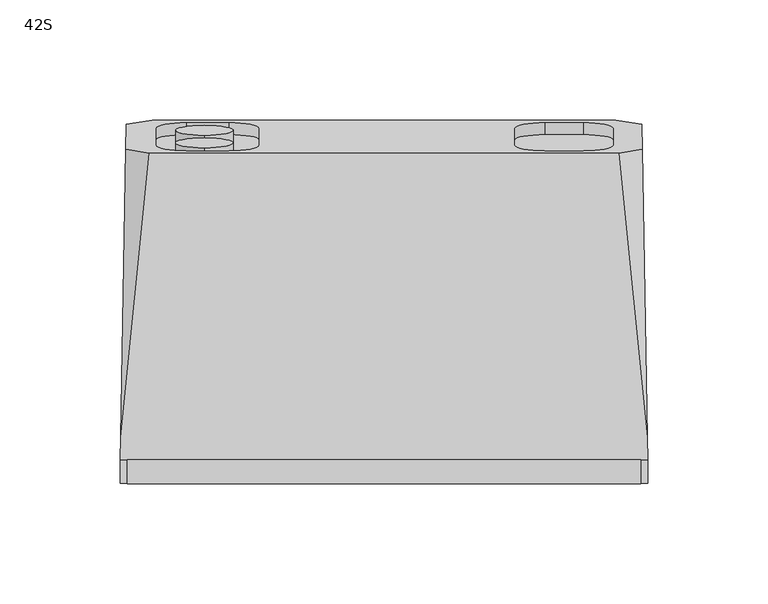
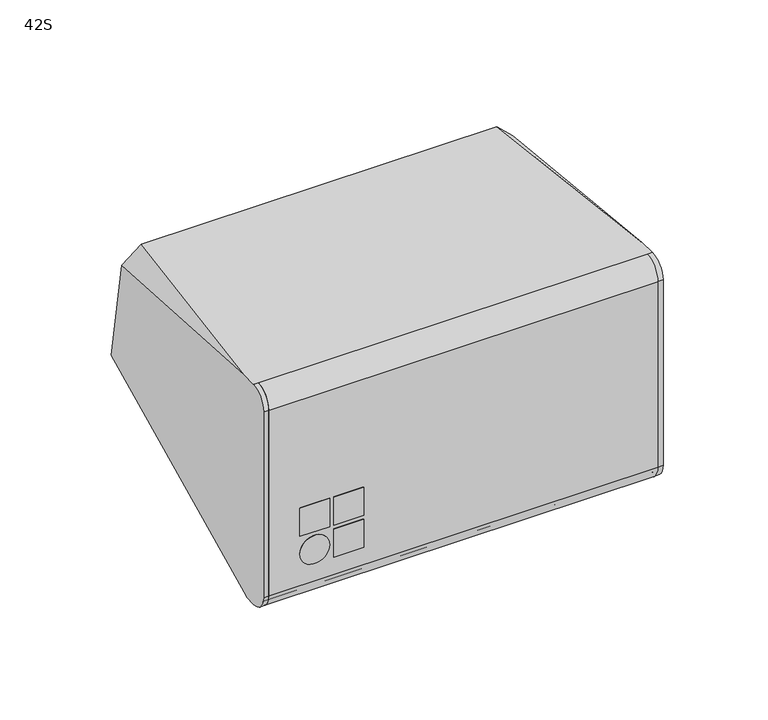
"""IFC4 building model written with IfcOpenShell, lengths in millimetres: proxy geometry, d&b xS-Series 42S Point Source : 42S."""

from ifc_helpers import new_model, si_unit, point, frame, frame_2d, origin, place, context, project, spatial, polyline, circle_curve, ellipse_curve, trimmed, segment, composite_curve, outline, extrude, source, transform, mapped, element, save
from ifc_brep_helpers import plane_surface, cylinder_surface, revolved_surface, advanced_brep


def proxy_42s_642b6e83(model_context):
    return source(origin(), model_context, "Body", "SolidModel", [
        extrude(outline(polyline([(-73.6666667, -76.0), (-90.0, -76.0), (-90.0, -71.0), (-73.6666667, -71.0), (-73.6666667, -76.0)])), frame((0.0, 0.0, -25.3333333), z_axis=(0.0, 0.0, 1.0), x_axis=(1.0, 0.0, 0.0)), (0.0, 0.0, 1.0), 16.3333333),
        extrude(outline(polyline([(-55.0, -76.0), (-71.3333333, -76.0), (-71.3333333, -71.0), (-55.0, -71.0), (-55.0, -76.0)])), frame((0.0, 0.0, -25.3333333), z_axis=(0.0, 0.0, 1.0), x_axis=(1.0, 0.0, 0.0)), (0.0, 0.0, 1.0), 16.3333333),
        extrude(outline(polyline([(-55.0, -76.0), (-71.3333333, -76.0), (-71.3333333, -71.0), (-55.0, -71.0), (-55.0, -76.0)])), frame((0.0, 0.0, -44.0), z_axis=(0.0, 0.0, 1.0), x_axis=(1.0, 0.0, 0.0)), (0.0, 0.0, 1.0), 16.3333333),
        extrude(outline(composite_curve([segment(trimmed(circle_curve(frame_2d((-35.8333333, -81.8333333)), 8.1666667), [point((-35.8333333, -73.6666667))], [point((-35.8333333, -90.0))], False, "CARTESIAN"), True, "CONTINUOUS"), segment(trimmed(circle_curve(frame_2d((-35.8333333, -81.8333333)), 8.1666667), [point((-35.8333333, -90.0))], [point((-35.8333333, -73.6666667))], False, "CARTESIAN"), True, "CONTINUOUS")], self_intersect=False)), frame((0.0, -76.0, 0.0), z_axis=(0.0, 1.0, 0.0), x_axis=(0.0, 0.0, 1.0)), (0.0, 0.0, 1.0), 5.0),
        extrude(outline(composite_curve([segment(trimmed(circle_curve(frame_2d((-65.9650952, -54.0)), 8.0), [point((-73.9650952, -54.0))], [point((-65.9650952, -62.0))], True, "CARTESIAN"), True, "CONTINUOUS"), segment(polyline([(-65.9650952, -62.0), (-65.9650952, -64.0349048)]), True, "CONTINUOUS"), segment(trimmed(circle_curve(frame_2d((-65.9650952, -54.0)), 10.0349048), [point((-65.9650952, -64.0349048))], [point((-76.0, -54.0))], False, "CARTESIAN"), True, "CONTINUOUS"), segment(polyline([(-76.0, -54.0), (-76.0, 54.0)]), True, "CONTINUOUS"), segment(trimmed(circle_curve(frame_2d((-66.0, 54.0)), 10.0), [point((-76.0, 54.0))], [point((-66.0, 64.0))], False, "CARTESIAN"), True, "CONTINUOUS"), segment(polyline([(-66.0, 64.0), (-66.0, 62.0435242)]), True, "CONTINUOUS"), segment(trimmed(circle_curve(frame_2d((-66.0, 54.078429)), 7.9650952), [point((-66.0, 62.0435242))], [point((-73.9650952, 54.078429))], True, "CARTESIAN"), True, "CONTINUOUS"), segment(polyline([(-73.9650952, 54.078429), (-73.9650952, -54.0)]), True, "CONTINUOUS")], self_intersect=False)), frame((-107.0, 0.0, 0.0), z_axis=(1.0, 0.0, 0.0), x_axis=(0.0, 1.0, 0.0)), (0.0, 0.0, 1.0), 214.0),
        advanced_brep(
        [(107.0, -66.0, 64.0), (-107.0, -66.0, 64.0), (-107.0, -66.0, 62.0435242), (107.0, -66.0, 62.0435242), (-107.0, -73.9650952, 54.078429), (107.0, -73.9650952, 54.078429), (-107.0, -73.9650952, -54.0), (107.0, -73.9650952, -54.0), (-107.0, -65.9650952, -62.0), (107.0, -65.9650952, -62.0), (-107.0, -65.9650952, -64.0), (107.0, -65.9650952, -64.0), (-109.8273531, -65.9650952, -64.0), (-109.7253263, -60.0349048, -64.0), (109.7253263, -60.0349048, -64.0), (109.8273531, -65.9650952, -64.0), (109.8279536, -66.0, 64.0), (109.6679034, -56.6972655, 64.0), (97.8946622, 61.6262346, 64.0), (-97.8946622, 61.6262346, 64.0), (-109.6679034, -56.6972655, 64.0), (-109.8279536, -66.0, 64.0), (-96.5142171, 75.4999923, -14.6819894), (96.5142171, 75.4999923, -14.6819894), (109.6679034, -56.6972655, -62.7855103), (-109.6679034, -56.6972655, -62.7855103), (107.602215, 63.3685056, 54.1190905), (-107.602215, 63.3685056, 54.1190905), (-107.4240938, 73.7215924, -4.5961827), (107.4240938, 73.7215924, -4.5961827), (109.9986507, -75.921571, 54.078429), (109.9993995, -75.9650952, -54.0), (-109.9993995, -75.9650952, -54.0), (-109.9993995, -75.9650952, 54.078429), (107.0, -75.9650952, -54.0), (107.0, -75.9650952, 54.078429), (95.447753, 64.9457885, 45.1738745), (82.947753, 62.7751863, 57.4839714), (67.052247, 62.7751863, 57.4839714), (54.552247, 64.9457885, 45.1738745), (54.552247, 72.167034, 4.2201563), (67.052247, 74.3376362, -8.0899406), (82.947753, 74.3376362, -8.0899406), (95.447753, 72.167034, 4.2201563), (-52.1, 64.9457885, 45.1738745), (-64.6, 62.7751863, 57.4839714), (-82.4, 62.7751863, 57.4839714), (-94.9, 64.9457885, 45.1738745), (-94.9, 72.167034, 4.2201563), (-82.4, 74.3376362, -8.0899406), (-64.6, 74.3376362, -8.0899406), (-52.1, 72.167034, 4.2201563), (95.447753, 60.0217497, 44.3056336), (95.447753, 67.2429952, 3.3519154), (82.947753, 69.4135974, -8.9581815), (67.052247, 69.4135974, -8.9581815), (54.552247, 67.2429952, 3.3519154), (54.552247, 60.0217497, 44.3056336), (67.052247, 57.8511475, 56.6157306), (82.947753, 57.8511475, 56.6157306), (-52.1, 60.0217497, 44.3056336), (-52.1, 67.2429952, 3.3519154), (-64.6, 69.4135974, -8.9581815), (-82.4, 69.4135974, -8.9581815), (-94.9, 67.2429952, 3.3519154), (-94.9, 60.0217497, 44.3056336), (-82.4, 57.8511475, 56.6157306), (-64.6, 57.8511475, 56.6157306), (-107.0, -75.921571, 54.078429), (-107.0, -75.9650952, -54.0)],
        [
            (0, 1),
            (1, 2),
            (2, 3),
            (3, 0),
            (2, 4, circle_curve(frame((-107.0, -66.0, 54.078429), z_axis=(1.0, 0.0, 0.0), x_axis=(0.0, 0.0, 1.0)), 7.9650952)),
            (4, 5),
            (5, 3, circle_curve(frame((107.0, -66.0, 54.078429), z_axis=(-1.0, 0.0, 0.0), x_axis=(0.0, 0.0, 1.0)), 7.9650952)),
            (4, 6),
            (6, 7),
            (7, 5),
            (6, 8, circle_curve(frame((-107.0, -65.9650952, -54.0), z_axis=(1.0, 0.0, 0.0), x_axis=(0.0, 0.0, 1.0)), 8.0)),
            (8, 9),
            (9, 7, circle_curve(frame((107.0, -65.9650952, -54.0), z_axis=(-1.0, 0.0, 0.0), x_axis=(0.0, 0.0, 1.0)), 8.0)),
            (8, 10),
            (10, 11),
            (11, 9),
            (10, 12),
            (12, 13),
            (13, 14),
            (14, 15),
            (15, 11),
            (0, 16),
            (16, 17),
            (17, 18),
            (18, 19),
            (19, 20),
            (20, 21),
            (21, 1),
            (22, 23),
            (23, 24),
            (24, 14),
            (13, 25),
            (25, 22),
            (26, 18),
            (17, 26),
            (19, 27),
            (27, 20),
            (28, 22),
            (25, 28),
            (23, 29),
            (29, 24),
            (29, 26),
            (16, 30, ellipse_curve(frame((109.8279536, -66.0, 54.078429), z_axis=(0.9998520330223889, 0.017202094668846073, 0.0), x_axis=(0.01720209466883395, -0.999852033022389, 0.0)), 9.9230392, 9.921571)),
            (30, 31),
            (31, 15, ellipse_curve(frame((109.8273531, -65.9650952, -54.0), z_axis=(0.9998520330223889, 0.017202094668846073, 0.0), x_axis=(0.01720209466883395, -0.999852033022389, 0.0)), 10.0014799, 10.0)),
            (12, 32, ellipse_curve(frame((-109.8273531, -65.9650952, -54.0), z_axis=(-0.999852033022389, 0.017202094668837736, 0.0), x_axis=(0.017202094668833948, 0.999852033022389, 0.0)), 10.0014799, 10.0)),
            (32, 33),
            (33, 21, ellipse_curve(frame((-109.8279536, -66.0, 54.078429), z_axis=(-0.999852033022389, 0.017202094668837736, 0.0), x_axis=(0.017202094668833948, 0.999852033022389, 0.0)), 9.9230392, 9.921571)),
            (27, 28),
            (11, 34, circle_curve(frame((107.0, -65.9650952, -54.0), z_axis=(-1.0, 0.0, 0.0), x_axis=(0.0, 0.0, 1.0)), 10.0)),
            (34, 35),
            (35, 0, circle_curve(frame((107.0, -66.0, 54.078429), z_axis=(-1.0, 0.0, 0.0), x_axis=(0.0, 0.0, 1.0)), 9.921571)),
            (35, 30),
            (34, 31),
            (36, 37, circle_curve(frame((82.947753, 64.9457885, 45.1738745), z_axis=(0.0, -0.9848077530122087, -0.17364817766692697), x_axis=(0.0, 0.17364817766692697, -0.9848077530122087)), 12.5)),
            (37, 38),
            (38, 39, circle_curve(frame((67.052247, 64.9457885, 45.1738745), z_axis=(0.0, -0.9848077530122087, -0.17364817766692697), x_axis=(0.0, 0.17364817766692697, -0.9848077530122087)), 12.5)),
            (39, 40),
            (40, 41, circle_curve(frame((67.052247, 72.167034, 4.2201563), z_axis=(0.0, -0.9848077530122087, -0.17364817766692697), x_axis=(0.0, 0.17364817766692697, -0.9848077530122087)), 12.5)),
            (41, 42),
            (42, 43, circle_curve(frame((82.947753, 72.167034, 4.2201563), z_axis=(0.0, -0.9848077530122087, -0.17364817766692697), x_axis=(0.0, 0.17364817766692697, -0.9848077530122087)), 12.5)),
            (43, 36),
            (44, 45, circle_curve(frame((-64.6, 64.9457885, 45.1738745), z_axis=(0.0, -0.9848077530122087, -0.17364817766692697), x_axis=(0.0, 0.17364817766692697, -0.9848077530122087)), 12.5)),
            (45, 46),
            (46, 47, circle_curve(frame((-82.4, 64.9457885, 45.1738745), z_axis=(0.0, -0.9848077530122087, -0.17364817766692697), x_axis=(0.0, 0.17364817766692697, -0.9848077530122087)), 12.5)),
            (47, 48),
            (48, 49, circle_curve(frame((-82.4, 72.167034, 4.2201563), z_axis=(0.0, -0.9848077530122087, -0.17364817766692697), x_axis=(0.0, 0.17364817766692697, -0.9848077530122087)), 12.5)),
            (49, 50),
            (50, 51, circle_curve(frame((-64.6, 72.167034, 4.2201563), z_axis=(0.0, -0.9848077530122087, -0.17364817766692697), x_axis=(0.0, 0.17364817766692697, -0.9848077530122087)), 12.5)),
            (51, 44),
            (52, 53),
            (53, 54, circle_curve(frame((82.947753, 67.2429952, 3.3519154), z_axis=(0.0, 0.9848077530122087, 0.17364817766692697), x_axis=(0.0, 0.17364817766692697, -0.9848077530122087)), 12.5)),
            (54, 55),
            (55, 56, circle_curve(frame((67.052247, 67.2429952, 3.3519154), z_axis=(0.0, 0.9848077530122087, 0.17364817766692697), x_axis=(0.0, 0.17364817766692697, -0.9848077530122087)), 12.5)),
            (56, 57),
            (57, 58, circle_curve(frame((67.052247, 60.0217497, 44.3056336), z_axis=(0.0, 0.9848077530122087, 0.17364817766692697), x_axis=(0.0, 0.17364817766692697, -0.9848077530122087)), 12.5)),
            (58, 59),
            (59, 52, circle_curve(frame((82.947753, 60.0217497, 44.3056336), z_axis=(0.0, 0.9848077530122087, 0.17364817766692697), x_axis=(0.0, 0.17364817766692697, -0.9848077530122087)), 12.5)),
            (60, 61),
            (61, 62, circle_curve(frame((-64.6, 67.2429952, 3.3519154), z_axis=(0.0, 0.9848077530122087, 0.17364817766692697), x_axis=(0.0, 0.17364817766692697, -0.9848077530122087)), 12.5)),
            (62, 63),
            (63, 64, circle_curve(frame((-82.4, 67.2429952, 3.3519154), z_axis=(0.0, 0.9848077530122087, 0.17364817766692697), x_axis=(0.0, 0.17364817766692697, -0.9848077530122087)), 12.5)),
            (64, 65),
            (65, 66, circle_curve(frame((-82.4, 60.0217497, 44.3056336), z_axis=(0.0, 0.9848077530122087, 0.17364817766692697), x_axis=(0.0, 0.17364817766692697, -0.9848077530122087)), 12.5)),
            (66, 67),
            (67, 60, circle_curve(frame((-64.6, 60.0217497, 44.3056336), z_axis=(0.0, 0.9848077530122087, 0.17364817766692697), x_axis=(0.0, 0.17364817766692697, -0.9848077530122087)), 12.5)),
            (1, 68, circle_curve(frame((-107.0, -66.0, 54.078429), z_axis=(1.0, 0.0, 0.0), x_axis=(0.0, 0.0, 1.0)), 9.921571)),
            (68, 69),
            (69, 10, circle_curve(frame((-107.0, -65.9650952, -54.0), z_axis=(1.0, 0.0, 0.0), x_axis=(0.0, 0.0, 1.0)), 10.0)),
            (33, 68),
            (32, 69),
            (59, 37),
            (36, 52),
            (58, 38),
            (57, 39),
            (56, 40),
            (55, 41),
            (54, 42),
            (53, 43),
            (67, 45),
            (44, 60),
            (66, 46),
            (65, 47),
            (64, 48),
            (63, 49),
            (62, 50),
            (61, 51),
        ],
        [
            plane_surface(frame((107.0, -66.0, 64.0), z_axis=(0.0, -1.0, 0.0), x_axis=(-1.0, 0.0, 0.0))),
            cylinder_surface(frame((-107.0, -66.0, 54.078429), z_axis=(1.0, 0.0, 0.0), x_axis=(0.0, 0.0, 1.0)), 7.9650952),
            plane_surface(frame((107.0, -73.9650952, 54.078429), z_axis=(0.0, -1.0, 0.0), x_axis=(-1.0, 0.0, 0.0))),
            cylinder_surface(frame((-107.0, -65.9650952, -54.0), z_axis=(1.0, 0.0, 0.0), x_axis=(0.0, 0.0, 1.0)), 8.0),
            plane_surface(frame((107.0, -65.9650952, -62.0), z_axis=(0.0, -1.0, 0.0), x_axis=(-1.0, 0.0, 0.0))),
            plane_surface(frame((107.0, -65.9650952, -64.0), z_axis=(0.0, 0.0, -1.0), x_axis=(-1.0, 0.0, 0.0))),
            plane_surface(frame((107.0, -60.0349048, 64.0), z_axis=(0.0, 0.0, 1.0), x_axis=(-1.0, 0.0, 0.0))),
            plane_surface(frame((0.0, 76.0, -14.5000481), z_axis=(0.0, 0.34194264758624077, -0.939720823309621), x_axis=(1.0, 0.0, 0.0))),
            plane_surface(frame((103.232233, 76.0, 57.232233), z_axis=(0.705363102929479, 0.07018394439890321, 0.7053631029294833), x_axis=(-0.7071067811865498, 0.0, 0.7071067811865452))),
            plane_surface(frame((-103.232233, 76.0, 57.232233), z_axis=(-0.7053631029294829, 0.07018394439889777, 0.70536310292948), x_axis=(-0.7071067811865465, 0.0, -0.7071067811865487))),
            plane_surface(frame((-103.232233, 76.0, -7.7322812), z_axis=(-0.6719558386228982, 0.3113690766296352, -0.671955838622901), x_axis=(0.7071067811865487, 0.0, -0.7071067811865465))),
            plane_surface(frame((103.232233, 76.0, -7.7322812), z_axis=(0.6719558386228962, 0.31136907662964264, -0.6719558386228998), x_axis=(0.7071067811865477, 0.0, 0.7071067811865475))),
            plane_surface(frame((110.3665166, -97.3033587, -100.0), z_axis=(0.9998520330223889, 0.017202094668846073, 0.0), x_axis=(0.0, 0.0, 1.0))),
            plane_surface(frame((-107.2474477, 83.9889493, -100.0), z_axis=(-0.999852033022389, 0.017202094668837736, 0.0), x_axis=(0.0, 0.0, 1.0))),
            plane_surface(frame((107.0, -66.0, 64.0), z_axis=(-1.0, 0.0, 0.0), x_axis=(0.0, 1.0, 0.0))),
            cylinder_surface(frame((107.0, -66.0, 54.078429), z_axis=(1.0, 0.0, 0.0), x_axis=(0.0, 0.0, 1.0)), 9.921571),
            plane_surface(frame((112.6426388, -75.9650952, 54.078429), z_axis=(0.0, -1.0, 0.0), x_axis=(-1.0, 0.0, 0.0))),
            cylinder_surface(frame((107.0, -65.9650952, -54.0), z_axis=(1.0, 0.0, 0.0), x_axis=(0.0, 0.0, 1.0)), 10.0),
            plane_surface(frame((250.0, 58.5830883, 81.2585403), z_axis=(0.0, 0.9848077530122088, 0.17364817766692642), x_axis=(-1.0, 0.0, 0.0))),
            plane_surface(frame((82.947753, 62.192352, 31.9955367), z_axis=(0.0, 0.9848077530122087, 0.17364817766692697), x_axis=(1.0, 0.0, 0.0))),
            plane_surface(frame((-107.0, -66.0, 64.0), z_axis=(1.0, 0.0, 0.0), x_axis=(0.0, -1.0, 0.0))),
            cylinder_surface(frame((-113.0, -66.0, 54.078429), z_axis=(1.0, 0.0, 0.0), x_axis=(0.0, 0.0, 1.0)), 9.921571),
            plane_surface(frame((-107.0, -75.9650952, 54.078429), z_axis=(0.0, -1.0, 0.0), x_axis=(-1.0, 0.0, 0.0))),
            cylinder_surface(frame((-113.0, -65.9650952, -54.0), z_axis=(1.0, 0.0, 0.0), x_axis=(0.0, 0.0, 1.0)), 10.0),
            revolved_surface(polyline([(82.947753, 62.19235191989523, 31.995536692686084), (82.947753, 67.11639073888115, 32.863777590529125)]), (82.947753, 64.9457885, 45.1738745), (0.0, -0.9848077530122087, -0.17364817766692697)),
            plane_surface(frame((82.947753, 57.8511475, 56.6157306), z_axis=(0.0, 0.17364817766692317, -0.9848077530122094), x_axis=(0.0, 0.9848077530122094, 0.17364817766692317))),
            revolved_surface(polyline([(67.052247, 62.19235191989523, 31.995536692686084), (67.052247, 67.11639073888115, 32.863777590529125)]), (67.052247, 64.9457885, 45.1738745), (0.0, -0.9848077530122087, -0.17364817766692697)),
            plane_surface(frame((54.552247, 60.0217497, 44.3056336), z_axis=(1.0, 0.0, 0.0), x_axis=(0.0, 0.9848077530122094, 0.17364817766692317))),
            revolved_surface(polyline([(67.052247, 69.41359740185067, -8.958181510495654), (67.052247, 74.33763622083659, -8.089940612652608)]), (67.052247, 72.167034, 4.2201563), (0.0, -0.9848077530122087, -0.17364817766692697)),
            plane_surface(frame((67.052247, 69.4135974, -8.9581815), z_axis=(0.0, -0.17364817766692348, 0.9848077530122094), x_axis=(0.0, 0.9848077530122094, 0.17364817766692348))),
            revolved_surface(polyline([(82.947753, 69.41359740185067, -8.958181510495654), (82.947753, 74.33763622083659, -8.089940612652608)]), (82.947753, 72.167034, 4.2201563), (0.0, -0.9848077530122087, -0.17364817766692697)),
            plane_surface(frame((95.447753, 67.2429952, 3.3519154), z_axis=(-1.0, 0.0, 0.0), x_axis=(0.0, 0.9848077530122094, 0.17364817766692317))),
            revolved_surface(polyline([(-64.6, 62.19235191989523, 31.995536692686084), (-64.6, 67.11639073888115, 32.863777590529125)]), (-64.6, 64.9457885, 45.1738745), (0.0, -0.9848077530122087, -0.17364817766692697)),
            plane_surface(frame((-64.6, 57.8511475, 56.6157306), z_axis=(0.0, 0.17364817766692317, -0.9848077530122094), x_axis=(0.0, 0.9848077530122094, 0.17364817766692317))),
            revolved_surface(polyline([(-82.4, 62.19235191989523, 31.995536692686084), (-82.4, 67.11639073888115, 32.863777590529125)]), (-82.4, 64.9457885, 45.1738745), (0.0, -0.9848077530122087, -0.17364817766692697)),
            plane_surface(frame((-94.9, 60.0217497, 44.3056336), z_axis=(1.0, 0.0, 0.0), x_axis=(0.0, 0.9848077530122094, 0.17364817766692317))),
            revolved_surface(polyline([(-82.4, 69.41359740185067, -8.958181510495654), (-82.4, 74.33763622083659, -8.089940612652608)]), (-82.4, 72.167034, 4.2201563), (0.0, -0.9848077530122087, -0.17364817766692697)),
            plane_surface(frame((-82.4, 69.4135974, -8.9581815), z_axis=(0.0, -0.17364817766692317, 0.9848077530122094), x_axis=(0.0, 0.9848077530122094, 0.17364817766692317))),
            revolved_surface(polyline([(-64.6, 69.41359740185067, -8.958181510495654), (-64.6, 74.33763622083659, -8.089940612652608)]), (-64.6, 72.167034, 4.2201563), (0.0, -0.9848077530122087, -0.17364817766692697)),
            plane_surface(frame((-52.1, 67.2429952, 3.3519154), z_axis=(-1.0, 0.0, 0.0), x_axis=(0.0, 0.9848077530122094, 0.17364817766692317))),
        ],
        [
            (0, [[1, 2, 3, 4]]),
            (1, [[-3, 5, 6, 7]]),
            (2, [[-6, 8, 9, 10]]),
            (3, [[-9, 11, 12, 13]]),
            (4, [[-12, 14, 15, 16]]),
            (5, [[-15, 17, 18, 19, 20, 21]]),
            (6, [[-1, 22, 23, 24, 25, 26, 27, 28]]),
            (7, [[29, 30, 31, -19, 32, 33]]),
            (8, [[34, -24, 35]]),
            (9, [[-26, 36, 37]]),
            (10, [[38, -33, 39]]),
            (11, [[-30, 40, 41]]),
            (12, [[-20, -31, -41, 42, -35, -23, 43, 44, 45]]),
            (13, [[-18, 46, 47, 48, -27, -37, 49, -39, -32]]),
            (14, [[50, 51, 52, -4, -7, -10, -13, -16]]),
            (15, [[-52, 53, -43, -22]]),
            (16, [[-51, 54, -44, -53]]),
            (17, [[-50, -21, -45, -54]]),
            (18, [[-25, -34, -42, -40, -29, -38, -49, -36], [55, 56, 57, 58, 59, 60, 61, 62], [63, 64, 65, 66, 67, 68, 69, 70]]),
            (19, [[71, 72, 73, 74, 75, 76, 77, 78]]),
            (19, [[79, 80, 81, 82, 83, 84, 85, 86]]),
            (20, [[87, 88, 89, -14, -11, -8, -5, -2]]),
            (21, [[-87, -28, -48, 90]]),
            (22, [[-88, -90, -47, 91]]),
            (23, [[-89, -91, -46, -17]]),
            (24, [[-78, 92, -55, 93]]),
            (25, [[-77, 94, -56, -92]]),
            (26, [[-76, 95, -57, -94]]),
            (27, [[-75, 96, -58, -95]]),
            (28, [[-74, 97, -59, -96]]),
            (29, [[-73, 98, -60, -97]]),
            (30, [[-72, 99, -61, -98]]),
            (31, [[-71, -93, -62, -99]]),
            (32, [[-86, 100, -63, 101]]),
            (33, [[-85, 102, -64, -100]]),
            (34, [[-84, 103, -65, -102]]),
            (35, [[-83, 104, -66, -103]]),
            (36, [[-82, 105, -67, -104]]),
            (37, [[-81, 106, -68, -105]]),
            (38, [[-80, 107, -69, -106]]),
            (39, [[-79, -101, -70, -107]]),
        ],
    ),
        extrude(outline(composite_curve([segment(trimmed(circle_curve(frame_2d((0.0, -12.0)), 12.0), [point((0.0, -24.0))], [point((0.0, 0.0))], False, "CARTESIAN"), True, "CONTINUOUS"), segment(trimmed(circle_curve(frame_2d((0.0, -12.0)), 12.0), [point((0.0, 0.0))], [point((0.0, -24.0))], False, "CARTESIAN"), True, "CONTINUOUS")], self_intersect=False)), frame((-74.8471384, 58.9509918, 50.3782035), z_axis=(0.0, 0.9848077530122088, 0.17364817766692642), x_axis=(-1.0, 0.0, 0.0)), (0.0, 0.0, 1.0), 5.0),
        extrude(outline(composite_curve([segment(trimmed(circle_curve(frame_2d((0.0, -42.0)), 12.0), [point((0.0, -54.0))], [point((0.0, -30.0))], False, "CARTESIAN"), True, "CONTINUOUS"), segment(trimmed(circle_curve(frame_2d((0.0, -42.0)), 12.0), [point((0.0, -30.0))], [point((0.0, -54.0))], False, "CARTESIAN"), True, "CONTINUOUS")], self_intersect=False)), frame((-74.8471384, 58.9509918, 50.3782035), z_axis=(0.0, 0.9848077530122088, 0.17364817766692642), x_axis=(-1.0, 0.0, 0.0)), (0.0, 0.0, 1.0), 5.0),
    ])


if __name__ == "__main__":
    model = new_model("IFC4")
    model_context = context("Model", 3, world=origin())
    ifc_project = project(units=[si_unit("LENGTHUNIT", "METRE", prefix="MILLI")], contexts=[model_context])
    site = spatial("IfcSite", under=ifc_project)
    building = spatial("IfcBuilding", under=site)
    placement = place(None, origin())
    proxy_42s_shape = proxy_42s_642b6e83(model_context)
    element("IfcBuildingElementProxy", 1, Name="d&b xS-Series 42S Point Source : 42S", ObjectType="d&b xS-Series 42S Point Source : 42S", at=placement, inside=building, context=model_context, shape_type="MappedRepresentation", body=[
        mapped(proxy_42s_shape, transform((0.0, 0.0, 0.0), x_axis=(1.0, 0.0, 0.0), y_axis=(0.0, 1.0, 0.0), z_axis=(0.0, 0.0, 1.0))),
    ])
    save(model, "model.ifc")
